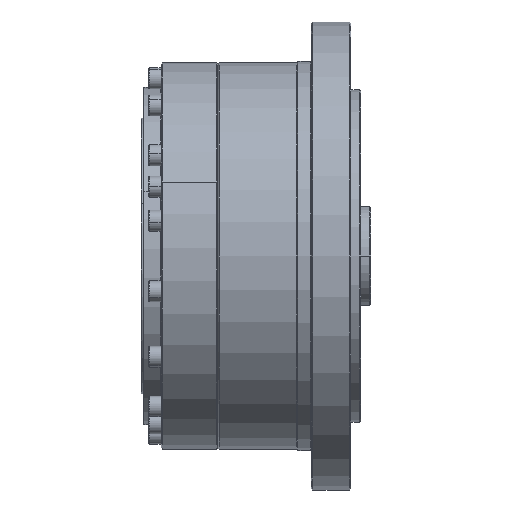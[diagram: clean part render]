
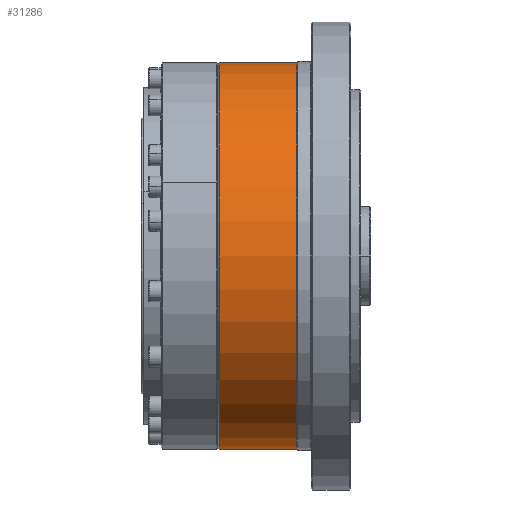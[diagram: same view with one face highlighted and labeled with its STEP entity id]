
A CAD part, front view. The second image highlights one B-rep face of the part: STEP entity #31286.
In plain terms, the highlighted cylindrical face has radius 78.5 mm (diameter 157 mm), a partial arc.
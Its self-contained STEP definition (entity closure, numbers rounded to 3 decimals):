
#699 = ORIENTED_EDGE ( 'NONE', *, *, #27880, .T. ) ;
#1171 = CARTESIAN_POINT ( 'NONE',  ( -46.5, 0., 78.5 ) ) ;
#2363 = DIRECTION ( 'NONE',  ( -1., 0., 0. ) ) ;
#3471 = VERTEX_POINT ( 'NONE', #4136 ) ;
#4136 = CARTESIAN_POINT ( 'NONE',  ( -15., 0., 78.5 ) ) ;
#4644 = VERTEX_POINT ( 'NONE', #1171 ) ;
#5091 = EDGE_CURVE ( 'NONE', #4644, #12318, #27970, .T. ) ;
#5125 = VECTOR ( 'NONE', #10988, 1000. ) ;
#5684 = CARTESIAN_POINT ( 'NONE',  ( -15., 0., -78.5 ) ) ;
#7056 = DIRECTION ( 'NONE',  ( 1., 0., 0. ) ) ;
#8848 = CARTESIAN_POINT ( 'NONE',  ( 6.019, 0., -78.5 ) ) ;
#10411 = DIRECTION ( 'NONE',  ( 0., 0., 1. ) ) ;
#10586 = CARTESIAN_POINT ( 'NONE',  ( -15., 0., 0. ) ) ;
#10988 = DIRECTION ( 'NONE',  ( -1., 0., 0. ) ) ;
#12040 = VECTOR ( 'NONE', #2363, 1000. ) ;
#12318 = VERTEX_POINT ( 'NONE', #37328 ) ;
#12998 = EDGE_LOOP ( 'NONE', ( #14868, #16223, #699, #37387 ) ) ;
#13836 = DIRECTION ( 'NONE',  ( 0., 0., 1. ) ) ;
#14868 = ORIENTED_EDGE ( 'NONE', *, *, #41570, .F. ) ;
#16223 = ORIENTED_EDGE ( 'NONE', *, *, #18823, .T. ) ;
#17450 = CARTESIAN_POINT ( 'NONE',  ( 6.019, 0., 78.5 ) ) ;
#18823 = EDGE_CURVE ( 'NONE', #34147, #3471, #26247, .T. ) ;
#20638 = AXIS2_PLACEMENT_3D ( 'NONE', #10586, #33173, #13836 ) ;
#21289 = LINE ( 'NONE', #17450, #5125 ) ;
#22301 = AXIS2_PLACEMENT_3D ( 'NONE', #26402, #7056, #29633 ) ;
#26247 = CIRCLE ( 'NONE', #20638, 78.5 ) ;
#26402 = CARTESIAN_POINT ( 'NONE',  ( -46.5, 0., 0. ) ) ;
#27880 = EDGE_CURVE ( 'NONE', #3471, #4644, #21289, .T. ) ;
#27970 = CIRCLE ( 'NONE', #22301, 78.5 ) ;
#28424 = FACE_OUTER_BOUND ( 'NONE', #12998, .T. ) ;
#29633 = DIRECTION ( 'NONE',  ( 0., 0., -1. ) ) ;
#31286 = ADVANCED_FACE ( 'NONE', ( #28424 ), #36015, .T. ) ;
#33141 = CARTESIAN_POINT ( 'NONE',  ( 6.019, 0., 0. ) ) ;
#33173 = DIRECTION ( 'NONE',  ( -1., 0., 0. ) ) ;
#34147 = VERTEX_POINT ( 'NONE', #5684 ) ;
#36015 = CYLINDRICAL_SURFACE ( 'NONE', #39772, 78.5 ) ;
#36338 = DIRECTION ( 'NONE',  ( -1., 0., 0. ) ) ;
#37328 = CARTESIAN_POINT ( 'NONE',  ( -46.5, 0., -78.5 ) ) ;
#37387 = ORIENTED_EDGE ( 'NONE', *, *, #5091, .T. ) ;
#37773 = LINE ( 'NONE', #8848, #12040 ) ;
#39772 = AXIS2_PLACEMENT_3D ( 'NONE', #33141, #36338, #10411 ) ;
#41570 = EDGE_CURVE ( 'NONE', #34147, #12318, #37773, .T. ) ;
